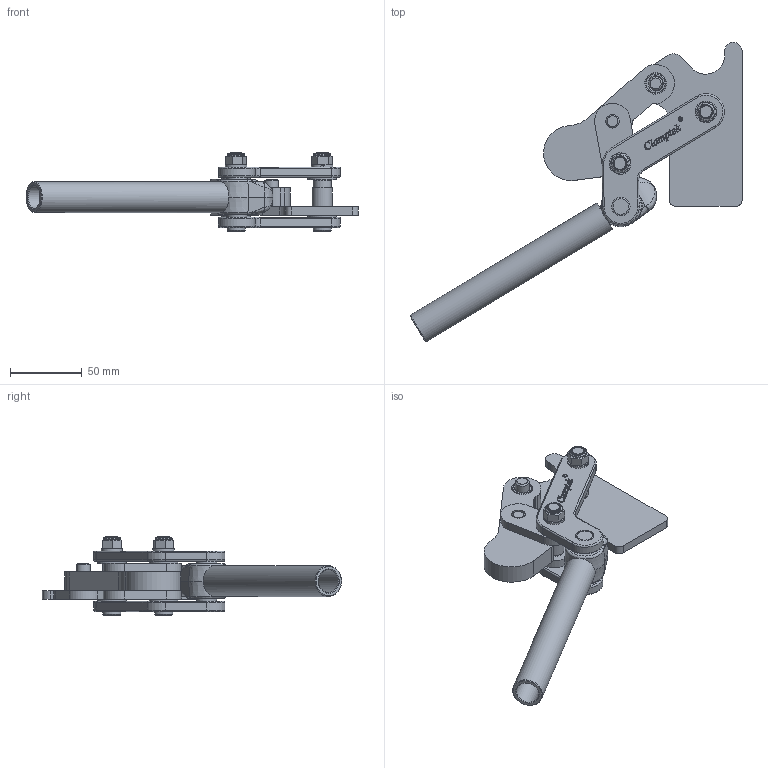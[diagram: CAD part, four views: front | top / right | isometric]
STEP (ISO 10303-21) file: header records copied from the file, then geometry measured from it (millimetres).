
FILE_DESCRIPTION(/* description */ ('STEP AP203'),/* implementation_level */ '2;1');
FILE_NAME(/* name */ 'D:\Vault_2016\Projekty\NASZ KATALOG\CLAMPTEK\STRONA\Heavy duty weldables\CH-701-D\CH-701-D_OTWARTY.stp',/* time_stamp */ '2019-01-14T13:35:02+01:00',/* author */ ('CADENGINEERING4'),/* organization */ ('Î¢ÈíÖÐ¹ú'),/* preprocessor_version */ 'ST-DEVELOPER v17.2',/* originating_system */ 'Autodesk Inventor 2019',/* authorisation */ '');
FILE_SCHEMA (('AUTOMOTIVE_DESIGN { 1 0 10303 214 3 1 1 }'));
Products named in the file (13): CH-701-D; 701-D-01_Ä¬ÈÏ; 702-D-03_Ä¬ÈÏ; 701-D-04_Ä¬ÈÏ; 702-D-12_Ä¬ÈÏ; 702-D-09_Ä¬ÈÏ; 702-D-10_Ä¬ÈÏ; 702-D-11_Ä¬ÈÏ; 702-D-06_Ä¬ÈÏ; 702-D-05_Ä¬ÈÏ; 3-8-16 LOCK NUT_Ä¬ÈÏ; 702-D-08_Ä¬ÈÏ; 702-D-07_Ä¬ÈÏ
Assembly tree (22 placements, depth 2):
  CH-701-D
    701-D-01_Ä¬ÈÏ
    702-D-10_Ä¬ÈÏ  x2
    702-D-11_Ä¬ÈÏ  x4
    3-8-16 LOCK NUT_Ä¬ÈÏ  x2
    702-D-03_Ä¬ÈÏ  x2
    702-D-12_Ä¬ÈÏ  x2
    701-D-04_Ä¬ÈÏ
    702-D-08_Ä¬ÈÏ  x2
    702-D-09_Ä¬ÈÏ
    702-D-06_Ä¬ÈÏ  x2
    702-D-05_Ä¬ÈÏ
    702-D-07_Ä¬ÈÏ  x2
Bounding box: 231.53 x 208.69 x 54.6 mm (x, y, z)
Volume: 187350.6 mm3; surface area: 86352.6 mm2
Topology: 23 solids, 23 shells, 2512 faces, 7308 edges, 4882 vertices
Faces by surface type: plane 1724, cylinder 497, bspline 209, cone 48, torus 30, sphere 4
Full cylindrical faces by diameter (mm): 2.749 x1, 3.071 x1, 7.5 x2, 8.5 x8, 9.5 x27, 9.6 x4, 9.8 x4, 10 x4, 12 x2, 12.6 x2, 12.7 x3, 12.8 x4, 12.9 x2, 14 x6, 16 x1, 20 x4, 21.5 x1
Entity records: 62834 total; most frequent: CARTESIAN_POINT 23142, ORIENTED_EDGE 8686, DIRECTION 7520, EDGE_CURVE 4343, LINE 2912, VECTOR 2912, VERTEX_POINT 2892, AXIS2_PLACEMENT_3D 2304
